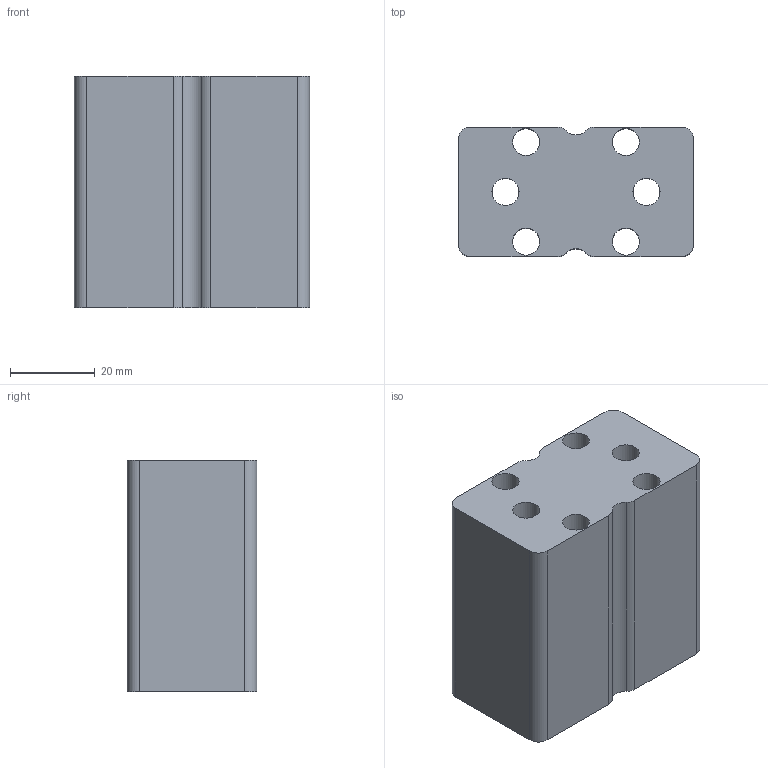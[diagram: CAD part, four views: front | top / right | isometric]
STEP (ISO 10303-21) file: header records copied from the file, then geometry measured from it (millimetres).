
FILE_DESCRIPTION(('Mechanical CAD reference from nasji.com'),'2;1');
FILE_NAME('NASJI.step','',(''),(''),'','NASJI distribution','');
FILE_SCHEMA(('AUTOMOTIVE_DESIGN { 1 0 10303 214 1 1 1 1 }'));
Length unit declared in the file: millimetre
Products named in the file (1): Open CASCADE STEP translator 7.8 3
Bounding box: 55.41 x 30.5 x 54.5 mm (x, y, z)
Volume: 80298.2 mm3; surface area: 18725.9 mm2
Topology: 1 solids, 1 shells, 24 faces, 66 edges, 44 vertices
Faces by surface type: cylinder 16, plane 8
Full cylindrical faces by diameter (mm): 6.4 x6
Entity records: 1746 total; most frequent: CARTESIAN_POINT 411, DIRECTION 256, LINE 134, VECTOR 134, ORIENTED_EDGE 132, PCURVE 132, DEFINITIONAL_REPRESENTATION 132, EDGE_CURVE 66
